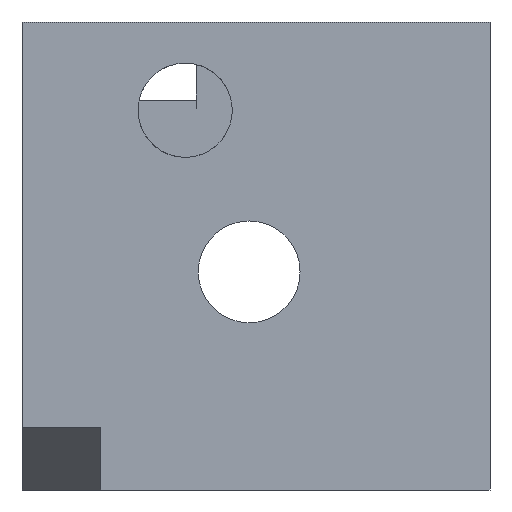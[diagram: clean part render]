
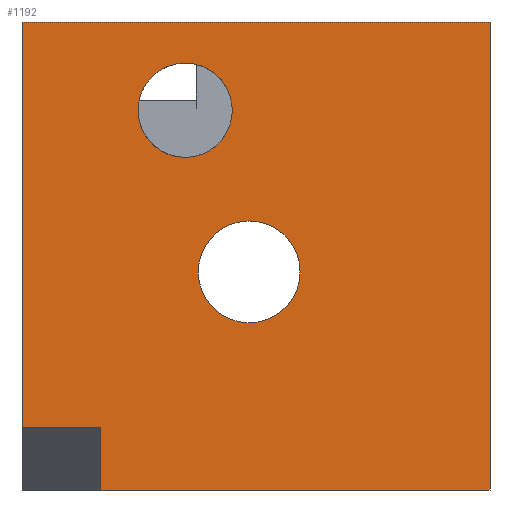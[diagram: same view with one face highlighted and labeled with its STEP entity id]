
A CAD part, front view. The second image highlights one B-rep face of the part: STEP entity #1192.
In plain terms, the highlighted planar face has unit normal (0, -1, 0).
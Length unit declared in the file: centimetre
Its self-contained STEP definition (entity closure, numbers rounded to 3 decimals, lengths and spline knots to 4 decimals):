
#7 = VECTOR ( 'NONE', #215, 100. ) ;
#12 = CARTESIAN_POINT ( 'NONE',  ( 485.4435, 0., 357.3339 ) ) ;
#34 = DIRECTION ( 'NONE',  ( 1., 0., 0. ) ) ;
#64 = CARTESIAN_POINT ( 'NONE',  ( 167.9726, 0., 0. ) ) ;
#70 = CARTESIAN_POINT ( 'NONE',  ( 0., 0., 1000. ) ) ;
#124 = CARTESIAN_POINT ( 'NONE',  ( 1000., 0., 1000. ) ) ;
#139 = EDGE_CURVE ( 'NONE', #442, #618, #515, .T. ) ;
#160 = EDGE_CURVE ( 'NONE', #185, #841, #645, .T. ) ;
#161 = DIRECTION ( 'NONE',  ( 0., 0., 1. ) ) ;
#185 = VERTEX_POINT ( 'NONE', #686 ) ;
#186 = CARTESIAN_POINT ( 'NONE',  ( 485.4435, 0., 466.0945 ) ) ;
#199 = AXIS2_PLACEMENT_3D ( 'NONE', #186, #286, #1027 ) ;
#206 = EDGE_CURVE ( 'NONE', #344, #618, #1061, .T. ) ;
#215 = DIRECTION ( 'NONE',  ( -1., 0., 0. ) ) ;
#216 = VECTOR ( 'NONE', #946, 100. ) ;
#253 = AXIS2_PLACEMENT_3D ( 'NONE', #778, #676, #1066 ) ;
#274 = FACE_BOUND ( 'NONE', #743, .T. ) ;
#277 = VERTEX_POINT ( 'NONE', #70 ) ;
#278 = CIRCLE ( 'NONE', #1056, 108.7606 ) ;
#286 = DIRECTION ( 'NONE',  ( 0., -1., 0. ) ) ;
#336 = EDGE_LOOP ( 'NONE', ( #1116, #563, #1067, #1183, #366, #460 ) ) ;
#344 = VERTEX_POINT ( 'NONE', #64 ) ;
#348 = VERTEX_POINT ( 'NONE', #1114 ) ;
#360 = VERTEX_POINT ( 'NONE', #457 ) ;
#366 = ORIENTED_EDGE ( 'NONE', *, *, #139, .F. ) ;
#367 = VERTEX_POINT ( 'NONE', #552 ) ;
#369 = DIRECTION ( 'NONE',  ( 0., 0., -1. ) ) ;
#376 = VECTOR ( 'NONE', #1052, 100. ) ;
#379 = FACE_OUTER_BOUND ( 'NONE', #336, .T. ) ;
#400 = AXIS2_PLACEMENT_3D ( 'NONE', #731, #923, #1099 ) ;
#402 = DIRECTION ( 'NONE',  ( 0., 0., -1. ) ) ;
#411 = EDGE_CURVE ( 'NONE', #277, #367, #1190, .T. ) ;
#438 = CARTESIAN_POINT ( 'NONE',  ( 167.9726, 0., 133.9376 ) ) ;
#442 = VERTEX_POINT ( 'NONE', #659 ) ;
#457 = CARTESIAN_POINT ( 'NONE',  ( 167.9726, 0., 133.9376 ) ) ;
#460 = ORIENTED_EDGE ( 'NONE', *, *, #638, .F. ) ;
#474 = DIRECTION ( 'NONE',  ( 0., 0., -1. ) ) ;
#475 = PLANE ( 'NONE',  #400 ) ;
#500 = CARTESIAN_POINT ( 'NONE',  ( 167.9726, 0., 133.9376 ) ) ;
#515 = LINE ( 'NONE', #124, #764 ) ;
#526 = AXIS2_PLACEMENT_3D ( 'NONE', #565, #933, #474 ) ;
#552 = CARTESIAN_POINT ( 'NONE',  ( 0., 0., 133.9376 ) ) ;
#563 = ORIENTED_EDGE ( 'NONE', *, *, #1082, .F. ) ;
#565 = CARTESIAN_POINT ( 'NONE',  ( 348.6337, 0., 811.4819 ) ) ;
#618 = VERTEX_POINT ( 'NONE', #685 ) ;
#638 = EDGE_CURVE ( 'NONE', #277, #442, #950, .T. ) ;
#645 = CIRCLE ( 'NONE', #253, 100.7594 ) ;
#659 = CARTESIAN_POINT ( 'NONE',  ( 1000., 0., 1000. ) ) ;
#676 = DIRECTION ( 'NONE',  ( 0., -1., 0. ) ) ;
#685 = CARTESIAN_POINT ( 'NONE',  ( 1000., 0., 0. ) ) ;
#686 = CARTESIAN_POINT ( 'NONE',  ( 348.6337, 0., 912.2414 ) ) ;
#700 = EDGE_LOOP ( 'NONE', ( #779, #846 ) ) ;
#704 = ORIENTED_EDGE ( 'NONE', *, *, #919, .F. ) ;
#731 = CARTESIAN_POINT ( 'NONE',  ( 0., 0., 1000. ) ) ;
#740 = FACE_BOUND ( 'NONE', #700, .T. ) ;
#742 = VECTOR ( 'NONE', #34, 100. ) ;
#743 = EDGE_LOOP ( 'NONE', ( #752, #704 ) ) ;
#752 = ORIENTED_EDGE ( 'NONE', *, *, #907, .F. ) ;
#757 = EDGE_CURVE ( 'NONE', #344, #360, #798, .T. ) ;
#764 = VECTOR ( 'NONE', #402, 100. ) ;
#778 = CARTESIAN_POINT ( 'NONE',  ( 348.6337, 0., 811.4819 ) ) ;
#779 = ORIENTED_EDGE ( 'NONE', *, *, #926, .F. ) ;
#798 = LINE ( 'NONE', #438, #1016 ) ;
#812 = CARTESIAN_POINT ( 'NONE',  ( 348.6337, 0., 710.7225 ) ) ;
#835 = CARTESIAN_POINT ( 'NONE',  ( 0., 0., 1000. ) ) ;
#841 = VERTEX_POINT ( 'NONE', #812 ) ;
#846 = ORIENTED_EDGE ( 'NONE', *, *, #160, .F. ) ;
#865 = CARTESIAN_POINT ( 'NONE',  ( 0., 0., 0. ) ) ;
#907 = EDGE_CURVE ( 'NONE', #1173, #348, #278, .T. ) ;
#919 = EDGE_CURVE ( 'NONE', #348, #1173, #961, .T. ) ;
#923 = DIRECTION ( 'NONE',  ( 0., 1., 0. ) ) ;
#926 = EDGE_CURVE ( 'NONE', #841, #185, #1036, .T. ) ;
#933 = DIRECTION ( 'NONE',  ( 0., -1., 0. ) ) ;
#946 = DIRECTION ( 'NONE',  ( 0., 0., -1. ) ) ;
#950 = LINE ( 'NONE', #1143, #376 ) ;
#961 = CIRCLE ( 'NONE', #199, 108.7606 ) ;
#1016 = VECTOR ( 'NONE', #161, 100. ) ;
#1027 = DIRECTION ( 'NONE',  ( 0., 0., -1. ) ) ;
#1036 = CIRCLE ( 'NONE', #526, 100.7594 ) ;
#1052 = DIRECTION ( 'NONE',  ( 1., 0., 0. ) ) ;
#1056 = AXIS2_PLACEMENT_3D ( 'NONE', #1102, #1199, #369 ) ;
#1061 = LINE ( 'NONE', #865, #742 ) ;
#1066 = DIRECTION ( 'NONE',  ( 0., 0., -1. ) ) ;
#1067 = ORIENTED_EDGE ( 'NONE', *, *, #757, .F. ) ;
#1082 = EDGE_CURVE ( 'NONE', #360, #367, #1136, .T. ) ;
#1099 = DIRECTION ( 'NONE',  ( 0., 0., 1. ) ) ;
#1102 = CARTESIAN_POINT ( 'NONE',  ( 485.4435, 0., 466.0945 ) ) ;
#1114 = CARTESIAN_POINT ( 'NONE',  ( 485.4435, 0., 574.8551 ) ) ;
#1116 = ORIENTED_EDGE ( 'NONE', *, *, #411, .T. ) ;
#1136 = LINE ( 'NONE', #500, #7 ) ;
#1143 = CARTESIAN_POINT ( 'NONE',  ( 0., 0., 1000. ) ) ;
#1173 = VERTEX_POINT ( 'NONE', #12 ) ;
#1183 = ORIENTED_EDGE ( 'NONE', *, *, #206, .T. ) ;
#1190 = LINE ( 'NONE', #835, #216 ) ;
#1192 = ADVANCED_FACE ( 'NONE', ( #740, #274, #379 ), #475, .F. ) ;
#1199 = DIRECTION ( 'NONE',  ( 0., -1., 0. ) ) ;
